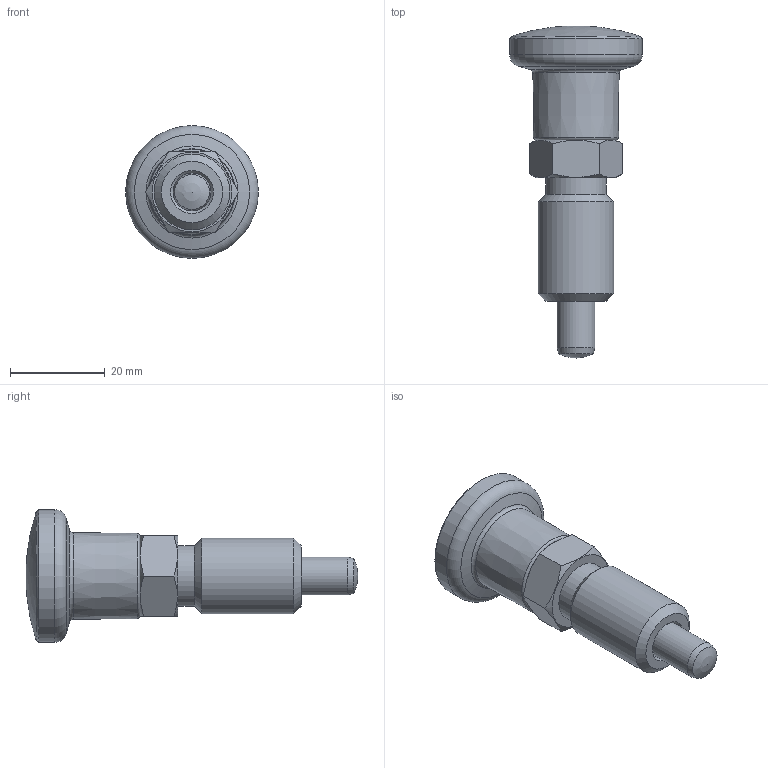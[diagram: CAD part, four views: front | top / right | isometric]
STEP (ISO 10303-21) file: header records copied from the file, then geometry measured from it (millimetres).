
FILE_DESCRIPTION( ( 'STEP AP203' ), '1' );
FILE_NAME( 'C:/Temp/Ganter_Step_05_03_2020/data/3_1/gn817/gn817_ni-rastbolzen_rot/Stainless steel-Indexing plunger GN 817-8-12-B-NI-RT (deactivated).stp', '2020-03-12T09:00:18', ( 'License CC BY-ND 4.0' ), ( 'CADENAS' ), ' ', 'PARTsolutions', ' ' );
FILE_SCHEMA( ( 'CONFIG_CONTROL_DESIGN' ) );
Length unit declared in the file: millimetre
Products named in the file (4): Stainless steel-Indexing plunger GN 817-8-12-B-NI-RT (deactivated); _Stainless steel-Indexing plunger GN 817-8-12-B-NI-RT (deactivated)-d; _Stainless steel-Indexing plunger GN 817-8-12-B-NI-RT-2; _Stainless Steel Indexing plunger GN 817-8-12-B-NI-RT-1
Assembly tree (3 placements, depth 2):
  Stainless steel-Indexing plunger GN 817-8-12-B-NI-RT (deactivated)
    _Stainless steel-Indexing plunger GN 817-8-12-B-NI-RT (deactivated)-d
    _Stainless steel-Indexing plunger GN 817-8-12-B-NI-RT-2
    _Stainless Steel Indexing plunger GN 817-8-12-B-NI-RT-1
Bounding box: 28 x 70 x 28 mm (x, y, z)
Volume: 15667.3 mm3; surface area: 6593 mm2
Topology: 2 solids, 2 shells, 36 faces, 73 edges, 44 vertices
Faces by surface type: plane 12, cone 10, cylinder 7, torus 5, bspline 1, sphere 1
Full cylindrical faces by diameter (mm): 6 x2, 8 x2, 12.8 x1, 16 x1, 28 x1
Entity records: 1058 total; most frequent: CARTESIAN_POINT 280, DIRECTION 140, ORIENTED_EDGE 92, AXIS2_PLACEMENT_3D 67, EDGE_LOOP 64, FACE_OUTER_BOUND 48, EDGE_CURVE 46, VERTEX_POINT 42
